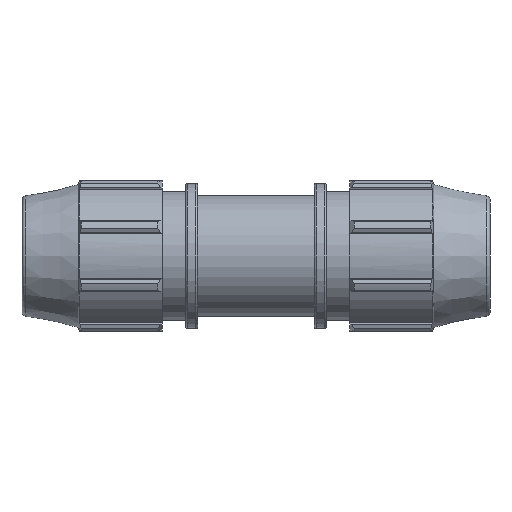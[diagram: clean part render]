
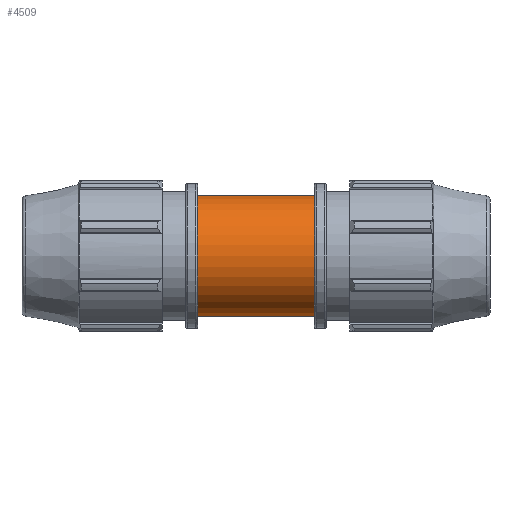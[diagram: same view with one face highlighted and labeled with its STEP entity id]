
A CAD part, front view. The second image highlights one B-rep face of the part: STEP entity #4509.
In plain terms, the highlighted cylindrical face has radius 20.288 mm (diameter 40.576 mm), a full revolution.
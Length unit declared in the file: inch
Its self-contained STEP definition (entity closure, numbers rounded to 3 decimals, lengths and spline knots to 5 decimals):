
#250=FACE_BOUND('',#1298,.T.);
#270=LINE('',#6688,#633);
#633=VECTOR('',#5246,0.79875);
#995=CYLINDRICAL_SURFACE('',#4766,0.79875);
#1062=FACE_OUTER_BOUND('',#1297,.T.);
#1297=EDGE_LOOP('',(#2935,#2936,#2937,#2938,#2939,#2940));
#1298=EDGE_LOOP('',(#2941));
#1550=B_SPLINE_CURVE_WITH_KNOTS('',3,(#6654,#6655,#6656,#6657,#6658,#6659,
#6660,#6661,#6662,#6663,#6664,#6665,#6666,#6667,#6668,#6669,#6670,#6671,
#6672,#6673),.UNSPECIFIED.,.T.,.F.,(4,1,1,1,1,1,1,1,1,1,1,1,1,1,1,1,1,4),
(-8.57057,-8.26447,-7.95838,-7.3462,
-6.52996,-6.12183,-5.30559,-4.89747,
-4.48934,-4.08122,-3.6731,-2.85686,
-2.44873,-1.83655,-1.22437,-0.61218,
-0.30609,0.),.UNSPECIFIED.);
#1566=CIRCLE('',#4767,0.79875);
#1567=CIRCLE('',#4768,0.79875);
#1568=CIRCLE('',#4769,0.79875);
#1569=CIRCLE('',#4770,0.79875);
#1791=VERTEX_POINT('',#6626);
#1797=VERTEX_POINT('',#6683);
#1798=VERTEX_POINT('',#6684);
#1799=VERTEX_POINT('',#6687);
#1800=VERTEX_POINT('',#6689);
#2251=EDGE_CURVE('',#1791,#1791,#1550,.T.);
#2256=EDGE_CURVE('',#1797,#1798,#1566,.T.);
#2257=EDGE_CURVE('',#1798,#1797,#1567,.T.);
#2258=EDGE_CURVE('',#1798,#1799,#270,.T.);
#2259=EDGE_CURVE('',#1799,#1800,#1568,.T.);
#2260=EDGE_CURVE('',#1800,#1799,#1569,.T.);
#2935=ORIENTED_EDGE('',*,*,#2256,.F.);
#2936=ORIENTED_EDGE('',*,*,#2257,.F.);
#2937=ORIENTED_EDGE('',*,*,#2258,.T.);
#2938=ORIENTED_EDGE('',*,*,#2259,.T.);
#2939=ORIENTED_EDGE('',*,*,#2260,.T.);
#2940=ORIENTED_EDGE('',*,*,#2258,.F.);
#2941=ORIENTED_EDGE('',*,*,#2251,.F.);
#4509=ADVANCED_FACE('',(#1062,#250),#995,.T.);
#4766=AXIS2_PLACEMENT_3D('',#6682,#5240,#5241);
#4767=AXIS2_PLACEMENT_3D('',#6685,#5242,#5243);
#4768=AXIS2_PLACEMENT_3D('',#6686,#5244,#5245);
#4769=AXIS2_PLACEMENT_3D('',#6690,#5247,#5248);
#4770=AXIS2_PLACEMENT_3D('',#6691,#5249,#5250);
#5240=DIRECTION('center_axis',(1.,0.,0.));
#5241=DIRECTION('ref_axis',(0.,1.,0.));
#5242=DIRECTION('center_axis',(1.,0.,0.));
#5243=DIRECTION('ref_axis',(0.,0.,-1.));
#5244=DIRECTION('center_axis',(1.,0.,0.));
#5245=DIRECTION('ref_axis',(0.,0.,-1.));
#5246=DIRECTION('',(-1.,0.,0.));
#5247=DIRECTION('center_axis',(1.,0.,0.));
#5248=DIRECTION('ref_axis',(0.,0.,-1.));
#5249=DIRECTION('center_axis',(1.,0.,0.));
#5250=DIRECTION('ref_axis',(0.,0.,-1.));
#6626=CARTESIAN_POINT('',(0.,0.5809,0.54823));
#6654=CARTESIAN_POINT('Ctrl Pts',(0.,0.5809,
0.54823));
#6655=CARTESIAN_POINT('Ctrl Pts',(0.04449,0.5809,
0.54823));
#6656=CARTESIAN_POINT('Ctrl Pts',(0.13338,0.5907,0.5383));
#6657=CARTESIAN_POINT('Ctrl Pts',(0.29486,0.63952,0.48143));
#6658=CARTESIAN_POINT('Ctrl Pts',(0.47998,0.73661,0.34173));
#6659=CARTESIAN_POINT('Ctrl Pts',(0.58549,0.80731,0.10263));
#6660=CARTESIAN_POINT('Ctrl Pts',(0.56099,0.79104,-0.18797));
#6661=CARTESIAN_POINT('Ctrl Pts',(0.43917,0.71176,-0.37877));
#6662=CARTESIAN_POINT('Ctrl Pts',(0.25681,0.62609,-0.49864));
#6663=CARTESIAN_POINT('Ctrl Pts',(0.09114,0.57926,
-0.55031));
#6664=CARTESIAN_POINT('Ctrl Pts',(-0.09127,0.57885,
-0.55031));
#6665=CARTESIAN_POINT('Ctrl Pts',(-0.31148,0.64244,
-0.48158));
#6666=CARTESIAN_POINT('Ctrl Pts',(-0.47696,0.73734,
-0.33544));
#6667=CARTESIAN_POINT('Ctrl Pts',(-0.57785,0.80173,
-0.10341));
#6668=CARTESIAN_POINT('Ctrl Pts',(-0.57735,0.8017,
0.13309));
#6669=CARTESIAN_POINT('Ctrl Pts',(-0.45782,0.72447,
0.35746));
#6670=CARTESIAN_POINT('Ctrl Pts',(-0.295,0.6398,
0.48173));
#6671=CARTESIAN_POINT('Ctrl Pts',(-0.13333,0.5906,
0.5382));
#6672=CARTESIAN_POINT('Ctrl Pts',(-0.04449,0.5809,
0.54823));
#6673=CARTESIAN_POINT('Ctrl Pts',(0.,0.5809,
0.54823));
#6682=CARTESIAN_POINT('Origin',(0.38625,0.,0.));
#6683=CARTESIAN_POINT('',(0.7725,0.79875,0.));
#6684=CARTESIAN_POINT('',(0.7725,-0.79875,0.));
#6685=CARTESIAN_POINT('Origin',(0.7725,0.,0.));
#6686=CARTESIAN_POINT('Origin',(0.7725,0.,0.));
#6687=CARTESIAN_POINT('',(-0.7725,-0.79875,0.));
#6688=CARTESIAN_POINT('',(0.38625,-0.79875,0.));
#6689=CARTESIAN_POINT('',(-0.7725,0.79875,0.));
#6690=CARTESIAN_POINT('Origin',(-0.7725,0.,0.));
#6691=CARTESIAN_POINT('Origin',(-0.7725,0.,0.));
